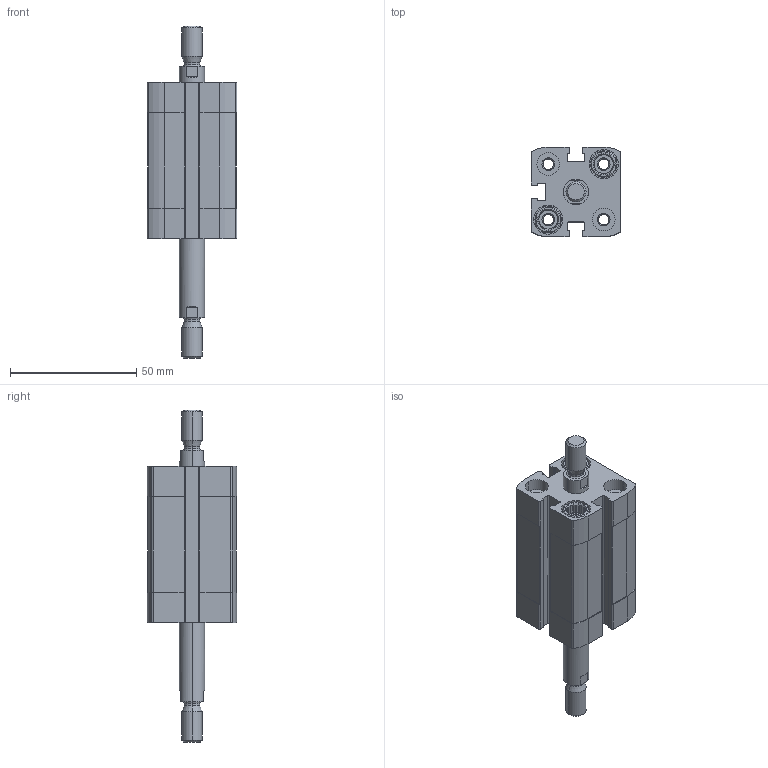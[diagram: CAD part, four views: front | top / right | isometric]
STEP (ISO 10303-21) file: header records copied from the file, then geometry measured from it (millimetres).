
FILE_DESCRIPTION (( 'STEP AP203' ), '1' );
FILE_NAME ('CCN20-25-P.STEP', '2020-06-22T18:40:00', ( '' ), ( '' ), 'SwSTEP 2.0', 'SolidWorks 2019', '' );
FILE_SCHEMA (( 'CONFIG_CONTROL_DESIGN' ));
Length unit declared in the file: millimetre
Products named in the file (1): CCN20-25-P
Bounding box: 35.5 x 35.5 x 131.5 mm (x, y, z)
Volume: 61338.5 mm3; surface area: 26974.8 mm2
Topology: 2 solids, 2 shells, 428 faces, 1122 edges, 730 vertices
Faces by surface type: plane 236, cylinder 140, cone 44, torus 8
Entity records: 13443 total; most frequent: CARTESIAN_POINT 2581, DIRECTION 2318, ORIENTED_EDGE 2244, EDGE_CURVE 1122, AXIS2_PLACEMENT_3D 867, VERTEX_POINT 730, VECTOR 584, LINE 584
